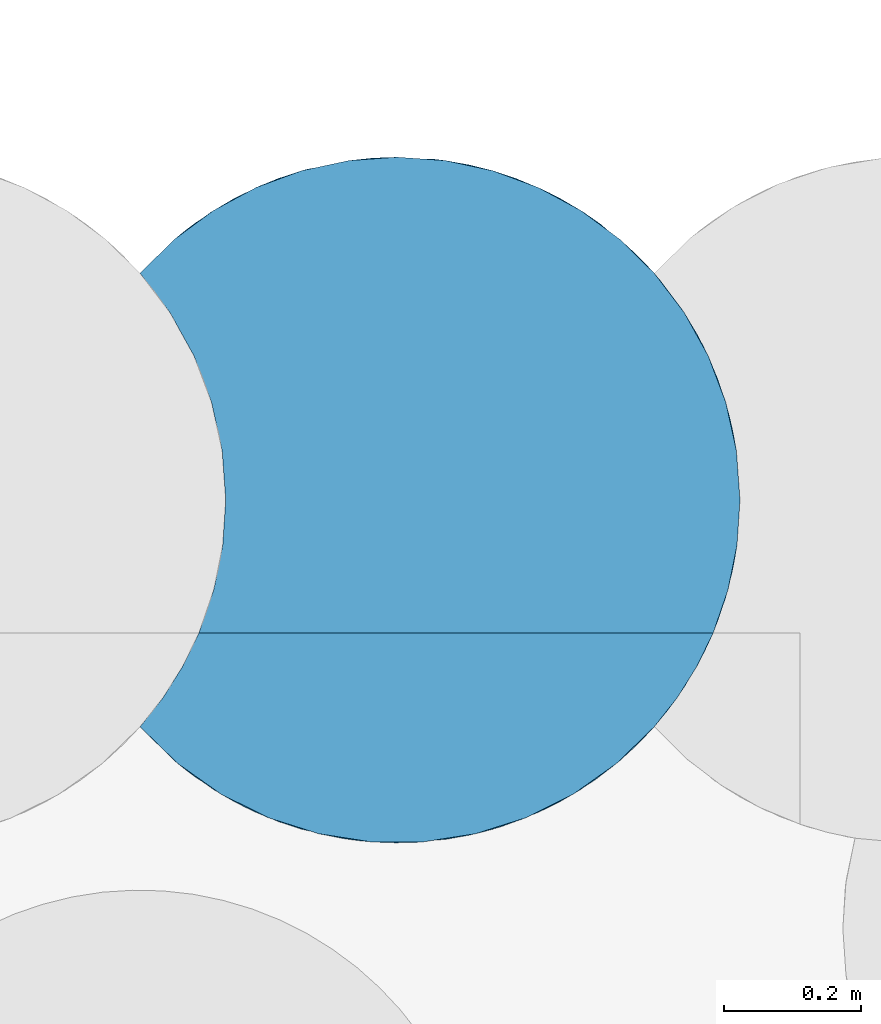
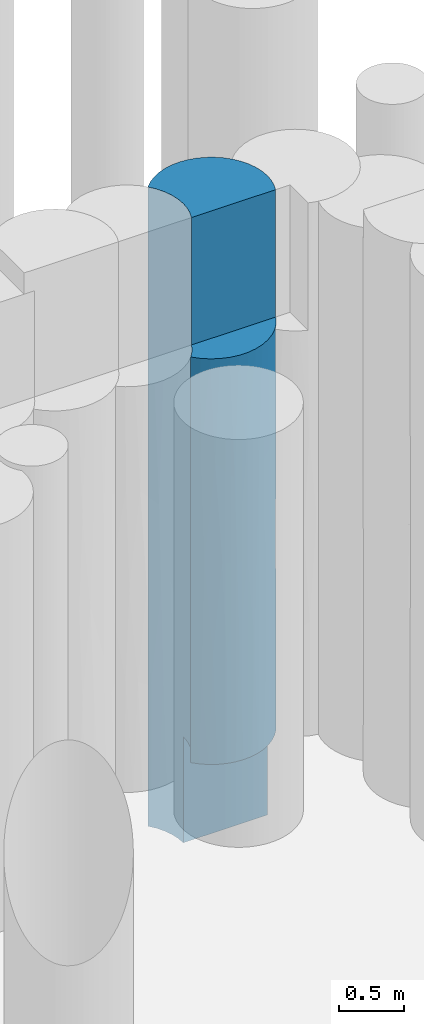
# One storey, part 97 of 104: 1 pile.
"""IFC2X3 building model written with IfcOpenShell, lengths in millimetres."""

from ifc_helpers import new_model, entity, si_unit, converted_unit, derived_unit, direction, frame, origin, place, context, subcontext, project, spatial, faceted_brep, source, transform, mapped, material, element, save


model = new_model("IFC2X3")

# Units and contexts
model_context = context("Model", 3, precision=0.01, world=origin(), true_north=direction((6.12303176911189e-17, 1.0)))
body_context = subcontext(model_context, "Body", "Model", "MODEL_VIEW")
ifc_project = project(units=[si_unit("LENGTHUNIT", "METRE", prefix="MILLI"), si_unit("AREAUNIT", "SQUARE_METRE", prefix="MILLI"), si_unit("VOLUMEUNIT", "CUBIC_METRE"), converted_unit("PLANEANGLEUNIT", "DEGREE", entity("IfcRatioMeasure", 0.0174532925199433), si_unit("PLANEANGLEUNIT", "RADIAN"), dimensions=[0, 0, 0, 0, 0, 0, 0]), si_unit("MASSUNIT", "GRAM", prefix="KILO"), derived_unit("MASSDENSITYUNIT", [(si_unit("MASSUNIT", "GRAM", prefix="KILO"), 1), (si_unit("LENGTHUNIT", "METRE"), -3)]), derived_unit("MOMENTOFINERTIAUNIT", [(si_unit("LENGTHUNIT", "METRE"), 4)]), si_unit("TIMEUNIT", "SECOND"), si_unit("FREQUENCYUNIT", "HERTZ"), si_unit("THERMODYNAMICTEMPERATUREUNIT", "DEGREE_CELSIUS"), derived_unit("THERMALTRANSMITTANCEUNIT", [(si_unit("MASSUNIT", "GRAM", prefix="KILO"), 1), (si_unit("THERMODYNAMICTEMPERATUREUNIT", "KELVIN"), -1), (si_unit("TIMEUNIT", "SECOND"), -3)]), derived_unit("VOLUMETRICFLOWRATEUNIT", [(si_unit("LENGTHUNIT", "METRE"), 3), (si_unit("TIMEUNIT", "SECOND"), -1)]), si_unit("ELECTRICCURRENTUNIT", "AMPERE"), si_unit("ELECTRICVOLTAGEUNIT", "VOLT"), si_unit("POWERUNIT", "WATT"), si_unit("FORCEUNIT", "NEWTON", prefix="KILO"), si_unit("ILLUMINANCEUNIT", "LUX"), si_unit("LUMINOUSFLUXUNIT", "LUMEN"), si_unit("LUMINOUSINTENSITYUNIT", "CANDELA"), derived_unit("USERDEFINED", [(si_unit("MASSUNIT", "GRAM", prefix="KILO"), -1), (si_unit("LENGTHUNIT", "METRE"), -2), (si_unit("TIMEUNIT", "SECOND"), 3), (si_unit("LUMINOUSFLUXUNIT", "LUMEN"), 1)]), derived_unit("LINEARVELOCITYUNIT", [(si_unit("LENGTHUNIT", "METRE"), 1), (si_unit("TIMEUNIT", "SECOND"), -1)]), si_unit("PRESSUREUNIT", "PASCAL"), derived_unit("USERDEFINED", [(si_unit("LENGTHUNIT", "METRE"), -2), (si_unit("MASSUNIT", "GRAM", prefix="KILO"), 1), (si_unit("TIMEUNIT", "SECOND"), -2)]), derived_unit("LINEARFORCEUNIT", [(si_unit("MASSUNIT", "GRAM", prefix="KILO"), 1), (si_unit("LENGTHUNIT", "METRE"), 1), (si_unit("TIMEUNIT", "SECOND"), -2), (si_unit("LENGTHUNIT", "METRE"), -1)]), derived_unit("PLANARFORCEUNIT", [(si_unit("MASSUNIT", "GRAM", prefix="KILO"), 1), (si_unit("LENGTHUNIT", "METRE"), 1), (si_unit("TIMEUNIT", "SECOND"), -2), (si_unit("LENGTHUNIT", "METRE"), -2)])], contexts=[model_context])

# Site, building, storey
site_placement = place(None, origin())
site = spatial("IfcSite", under=ifc_project, at=site_placement, Name="Theater aan de Parade", CompositionType="ELEMENT")
building_placement = place(site_placement, origin())
building = spatial("IfcBuilding", under=site, at=building_placement, Name="Theater aan de Parade", CompositionType="ELEMENT")
storey_placement = place(building_placement, frame((0.0, 0.0, -5520.0)))
storey = spatial("IfcBuildingStorey", under=building, at=storey_placement, Name="-2 kelder", CompositionType="ELEMENT", Elevation=-5520.0)

# Pile
ifc_material = material(Name="00_PBT_MAT_grout")
shared_shape = source(origin(), body_context, "Body", "Brep", [
    faceted_brep([(447.024567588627, 996.61013494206, 0.0), (516.050365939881, 981.75386768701, 0.0), (582.295809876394, 957.322480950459, 0.0), (644.44026184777, 923.802640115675, 0.0), (701.244632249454, 881.862011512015, 0.0), (751.56469811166, 832.344511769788, 0.0), (795.307447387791, 774.871898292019, 0.0), (830.306104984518, 711.705910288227, 0.0), (855.841245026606, 644.155075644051, 0.0), (871.379164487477, 573.629291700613, 0.0), (876.595272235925, 501.595272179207, 0.0), (126.595272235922, 501.595272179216, 0.0), (121.380912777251, 573.617282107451, 0.0), (105.846592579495, 644.137097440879, 0.0), (80.3163177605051, 711.683855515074, 0.0), (45.3225844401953, 774.848704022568, 0.0), (1.5952722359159, 832.31418606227, 0.0), (51.9353252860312, 881.852972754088, 0.0), (108.741467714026, 923.797047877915, 0.0), (170.888616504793, 957.319719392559, 0.0), (237.136331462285, 981.752750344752, 0.0), (306.163620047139, 996.609799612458, 0.0), (376.59435299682, 1001.59527217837, 0.0), (794.468326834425, 776.153299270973, 1181.5958701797), (549.604882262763, 970.70898423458, 4252.35185064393), (481.800030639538, 990.401940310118, 5046.73098298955), (613.960467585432, 941.660908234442, 5046.72952535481), (876.595272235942, 501.595272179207, 1000.0), (481.800030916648, 990.401940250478, 973.269015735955), (868.064788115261, 593.561108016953, 843.911549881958), (844.294832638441, 678.39210812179, 1143.34616429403), (203.580632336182, 970.70712918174, 1063.74296023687), (613.960468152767, 941.660907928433, 973.270472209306), (82.5015433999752, 905.957583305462, 2819.36088739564), (139.222527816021, 941.656836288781, 4134.76732109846), (179.390184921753, 961.062521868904, 3050.72380864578), (813.948631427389, 743.921579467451, 2131.49373735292), (59.299684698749, 888.019275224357, 3747.70813745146), (727.290636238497, 857.983770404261, 1450.22705156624), (203.580632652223, 970.707129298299, 4993.50721039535), (170.888616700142, 957.319719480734, 6020.0), (237.136331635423, 981.752750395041, 6020.0), (791.821968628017, 780.139327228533, 3961.93474479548), (760.314901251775, 822.15610308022, 2822.41944009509), (738.567546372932, 846.524355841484, 3621.6251713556), (855.841245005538, 644.155075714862, 6020.0), (871.379164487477, 573.629291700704, 6020.0), (864.885161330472, 609.17307754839, 5027.21067374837), (104.796649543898, 921.268369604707, 1017.24976929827), (376.594352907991, 1001.59527217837, 6020.0), (341.290873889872, 1000.34731423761, 4532.50916780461), (306.16362012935, 996.609799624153, 6020.0), (830.306104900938, 711.70591046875, 6020.0), (245.120995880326, 984.000200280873, 2037.01714424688), (341.290873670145, 1000.34731422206, 1487.49083043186), (862.936733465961, 617.664144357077, 2253.17997919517), (876.595272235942, 501.595272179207, 1948.4622724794), (813.948631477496, 743.921579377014, 4944.04250752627), (647.034222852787, 922.145832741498, 4095.65503016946), (876.595272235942, 501.595272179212, 6020.0), (876.595272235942, 501.595272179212, 4458.46227247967), (673.583725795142, 903.836317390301, 3010.0), (649.475534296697, 920.565870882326, 1946.18634442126), (598.684308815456, 949.564534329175, 2648.58333771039), (823.931585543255, 724.956465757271, 3130.25628401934), (860.453425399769, 627.616253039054, 3208.79938108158), (795.307447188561, 774.871898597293, 6020.0), (243.721180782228, 983.616512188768, 4025.56058442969), (727.290635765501, 857.983770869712, 4462.4601807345), (701.244631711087, 881.862011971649, 6020.0), (751.585178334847, 832.325631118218, 6020.0), (549.604882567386, 970.70898412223, 1767.64814583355), (442.216155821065, 997.270467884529, 1937.66301506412), (516.943667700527, 981.493519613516, 3010.0), (844.294831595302, 678.392110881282, 4034.71686422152), (1.59527223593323, 832.314186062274, 1561.5356282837), (1.5952722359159, 832.314186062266, 6020.0), (51.9353254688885, 881.852972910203, 6020.0), (1.5952722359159, 832.31418606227, 4571.53832180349), (60.8176018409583, 889.260672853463, 1988.52846477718), (1.59527223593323, 832.31418606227, 3123.07664360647), (869.613609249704, 584.85942634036, 4005.40034302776), (139.222527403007, 941.656836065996, 1966.68029860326), (876.595272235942, 501.595272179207, 2896.92454495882), (71.7376748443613, 897.905561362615, 4620.72040298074), (582.295809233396, 957.322481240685, 6020.0), (644.440261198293, 923.802640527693, 6020.0), (516.050365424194, 981.753867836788, 6020.0), (447.024567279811, 996.610134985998, 6020.0), (108.741467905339, 923.797047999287, 6020.0), (442.216155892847, 997.270467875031, 4082.33698560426), (341.290873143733, 1000.34731418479, 3010.0), (429.956556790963, 998.739691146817, 2778.24115108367), (588.234835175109, 954.594935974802, 3493.0699407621), (876.595272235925, 501.595272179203, 3510.0), (1.59527223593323, 832.314186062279, 2342.3064664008), (876.595272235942, 501.595272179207, 2561.53770592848), (237.133688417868, 21.4385616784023, 1979.16415685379), (170.888936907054, 45.870680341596, 1000.0), (237.139379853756, 21.4369086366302, 1000.0), (768.918143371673, 191.623072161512, 3881.14995496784), (696.360801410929, 117.212642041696, 4820.0), (665.805427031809, 93.7258244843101, 3784.44216774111), (66.8709000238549, 109.076720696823, 1808.25001791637), (1.5952722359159, 170.876358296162, 1780.76538335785), (51.9315440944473, 121.340799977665, 1000.0), (203.582286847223, 32.4828049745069, 2899.05592361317), (299.808764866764, 7.5266207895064, 3674.28632474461), (153.468948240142, 54.1417622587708, 3826.62005184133), (320.381932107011, 4.76526061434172, 2852.64814829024), (341.298032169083, 2.84272347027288, 2031.5394616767), (139.221565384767, 61.5342272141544, 2032.79887932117), (82.8600349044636, 96.9724720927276, 2910.0), (447.035194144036, 6.58192144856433, 1000.0), (481.811471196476, 12.7910665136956, 2031.53856965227), (376.602802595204, 1.5952722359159, 1000.0), (402.779789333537, 2.28137184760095, 3859.6748222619), (491.218850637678, 14.9111494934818, 4820.0), (415.111735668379, 3.08099751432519, 4820.0), (306.169463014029, 6.57991343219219, 1000.0), (1.5952722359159, 170.876358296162, 2561.53076671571), (1.5952722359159, 170.876358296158, 3258.45766776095), (338.09061171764, 3.08008573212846, 4820.0), (261.983113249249, 14.9084601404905, 4820.0), (503.291727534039, 17.913550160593, 2860.08389426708), (411.907133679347, 2.84375845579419, 2896.31694129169), (613.973379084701, 61.5366006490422, 2844.68650958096), (698.095693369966, 118.662537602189, 2876.77219665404), (613.973379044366, 61.5366006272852, 1893.77153454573), (516.062532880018, 21.4402105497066, 1000.0), (796.191343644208, 229.677753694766, 2003.42663853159), (768.91814336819, 191.623072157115, 2910.0), (727.301618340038, 145.217580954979, 2013.38083127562), (869.741710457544, 419.093208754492, 1963.43922655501), (855.843884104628, 359.044340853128, 1000.0), (871.38000584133, 429.567031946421, 1000.0), (188.595201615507, 38.2854692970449, 4820.0), (119.668311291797, 72.6564225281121, 4820.0), (61.9987064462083, 112.970773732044, 3850.70563280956), (1.5952722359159, 170.876358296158, 4820.0), (528.363265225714, 25.1852845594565, 3678.69038003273), (859.062113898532, 370.348380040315, 6020.0), (837.435053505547, 307.619253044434, 4820.0), (868.01901748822, 409.385171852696, 4958.42027906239), (582.308728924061, 45.8738948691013, 1000.0), (644.453065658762, 79.3960271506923, 1000.0), (701.256460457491, 121.338631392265, 1000.0), (751.595272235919, 170.876358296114, 1000.0), (795.315189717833, 228.330509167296, 1000.0), (867.058013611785, 404.403197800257, 2922.06841284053), (844.298622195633, 324.808461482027, 2323.87273859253), (830.31122192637, 291.495683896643, 1000.0), (108.739323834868, 79.3948566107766, 1000.0), (826.272405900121, 282.984944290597, 3622.97170314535), (1.5952722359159, 170.876358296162, 1000.0), (564.606016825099, 38.2898006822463, 4820.0), (633.531841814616, 72.6621780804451, 4820.0), (785.094634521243, 213.275534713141, 4820.0), (751.595272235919, 170.876358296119, 4820.0), (813.794085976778, 258.990249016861, 4820.0), (837.435053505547, 307.619253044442, 6020.0), (864.400417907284, 391.840364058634, 3984.23114693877), (872.192599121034, 435.388855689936, 6020.0), (56.8380491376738, 117.205732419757, 4820.0), (45.3225844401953, 774.848704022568, 6020.0), (80.3163177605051, 711.683855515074, 6020.0), (105.846592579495, 644.137097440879, 6020.0), (121.380912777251, 573.617282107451, 6020.0), (126.595272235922, 501.595272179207, 6020.0), (122.192599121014, 435.388855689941, 6020.0), (109.062113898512, 370.348380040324, 6020.0), (87.4350535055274, 307.619253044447, 6020.0), (126.595272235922, 501.595272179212, 1000.0), (63.961232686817, 743.898835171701, 1002.251565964), (103.716989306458, 651.110713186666, 929.57030199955), (114.888484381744, 609.157993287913, 4980.60391091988), (55.0608520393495, 759.310710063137, 4352.20394334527), (81.2171477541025, 709.727322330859, 5041.92503417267), (117.643576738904, 595.784245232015, 2422.69339012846), (94.3024450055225, 678.371969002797, 1823.06883587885), (84.0945850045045, 703.32375012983, 2968.94577947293), (117.697831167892, 595.500951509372, 3454.20517487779), (94.3024444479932, 678.371970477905, 4114.82273324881), (126.595272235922, 501.595272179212, 1948.46227207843), (126.595272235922, 501.595272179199, 2561.53770595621), (126.595272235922, 501.595272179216, 2896.92454415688), (126.595272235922, 501.595272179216, 4458.4622720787), (126.595272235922, 501.595272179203, 3510.0), (52.6084708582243, 763.344684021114, 1951.92213442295), (105.846592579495, 359.053446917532, 1000.0), (80.3163177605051, 291.506688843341, 1000.0), (63.9612331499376, 259.291710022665, 1953.95952442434), (114.888484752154, 394.032552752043, 1953.95952435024), (94.3024456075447, 324.818576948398, 2715.05844099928), (53.5045692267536, 241.309943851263, 2910.0), (45.3225844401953, 228.341840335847, 1000.0), (35.0899489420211, 213.268896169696, 4820.0), (114.808175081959, 393.668623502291, 3984.23114692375), (119.158859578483, 415.681871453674, 3035.76885284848), (76.281832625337, 283.004335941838, 3740.57177268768), (121.380912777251, 429.573262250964, 1000.0), (63.8150080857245, 259.027956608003, 4820.0), (87.4350535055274, 307.619253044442, 4820.0), (118.034858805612, 409.4696364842, 4962.41816817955)], [[[0, 1, 2, 3, 4, 5, 6, 7, 8, 9, 10, 11, 12, 13, 14, 15, 16, 17, 18, 19, 20, 21, 22]], [[7, 6, 23]], [[24, 25, 26]], [[10, 9, 27]], [[1, 28, 2]], [[29, 8, 30]], [[19, 31, 20]], [[3, 2, 32]], [[33, 34, 35]], [[23, 36, 30]], [[33, 37, 34]], [[38, 36, 23]], [[5, 4, 38]], [[28, 32, 2]], [[39, 40, 41]], [[42, 43, 44]], [[5, 38, 23]], [[8, 7, 30]], [[45, 46, 47]], [[19, 48, 31]], [[49, 50, 51]], [[45, 47, 52]], [[31, 53, 54]], [[55, 56, 29]], [[47, 57, 52]], [[24, 26, 58]], [[59, 60, 47]], [[61, 62, 63]], [[64, 65, 55]], [[52, 57, 66]], [[34, 67, 35]], [[68, 69, 70]], [[71, 72, 73]], [[26, 69, 68]], [[28, 1, 0]], [[32, 62, 38]], [[42, 57, 74]], [[32, 28, 71]], [[51, 39, 41]], [[54, 22, 21]], [[70, 57, 68]], [[17, 16, 75]], [[76, 77, 78]], [[79, 80, 33]], [[81, 47, 60]], [[53, 31, 82]], [[9, 29, 27]], [[82, 31, 48]], [[48, 19, 18]], [[81, 83, 65]], [[21, 31, 54]], [[84, 34, 37]], [[57, 70, 66]], [[26, 85, 86]], [[85, 26, 25]], [[85, 25, 87]], [[28, 72, 71]], [[21, 20, 31]], [[87, 25, 88]], [[68, 57, 42]], [[39, 67, 34]], [[34, 84, 39]], [[50, 39, 51]], [[75, 48, 17]], [[55, 30, 36]], [[38, 62, 43]], [[89, 84, 77]], [[4, 3, 32]], [[39, 89, 40]], [[49, 88, 25]], [[54, 28, 22]], [[67, 39, 50]], [[25, 90, 50]], [[62, 32, 71]], [[4, 32, 38]], [[22, 28, 0]], [[72, 28, 54]], [[69, 26, 86]], [[58, 26, 68]], [[90, 25, 24]], [[49, 25, 50]], [[55, 36, 64]], [[56, 27, 29]], [[63, 71, 73]], [[43, 62, 61]], [[54, 91, 72]], [[50, 90, 91]], [[92, 73, 72]], [[93, 63, 73]], [[24, 73, 90]], [[90, 73, 92]], [[44, 58, 68]], [[61, 63, 93]], [[50, 91, 67]], [[54, 53, 91]], [[91, 35, 67]], [[33, 35, 82]], [[82, 35, 53]], [[91, 53, 35]], [[74, 64, 42]], [[64, 43, 42]], [[64, 74, 65]], [[43, 64, 36]], [[38, 43, 36]], [[44, 68, 42]], [[81, 65, 74]], [[83, 55, 65]], [[74, 57, 47]], [[81, 60, 94, 83]], [[47, 46, 59]], [[74, 47, 81]], [[17, 48, 18]], [[79, 48, 75]], [[79, 33, 82]], [[33, 80, 37]], [[80, 78, 37]], [[84, 37, 78]], [[77, 84, 78]], [[39, 84, 89]], [[7, 23, 30]], [[5, 23, 6]], [[48, 79, 82]], [[79, 75, 95, 80]], [[71, 63, 62]], [[73, 24, 93]], [[24, 58, 93]], [[61, 93, 58]], [[43, 61, 44]], [[58, 44, 61]], [[8, 29, 9]], [[55, 29, 30]], [[55, 83, 96, 56]], [[72, 91, 92]], [[90, 92, 91]], [[97, 98, 99]], [[100, 101, 102]], [[103, 104, 105]], [[106, 107, 108]], [[109, 97, 110]], [[111, 106, 112]], [[113, 114, 115]], [[116, 117, 118]], [[115, 110, 119]], [[120, 103, 112]], [[120, 112, 121]], [[114, 110, 115]], [[107, 122, 123]], [[114, 124, 125]], [[102, 126, 127]], [[128, 114, 129]], [[130, 131, 132]], [[113, 129, 114]], [[133, 134, 135]], [[125, 109, 110]], [[108, 136, 137]], [[133, 27, 56, 96]], [[112, 138, 121]], [[139, 121, 138]], [[123, 108, 107]], [[108, 123, 136]], [[102, 127, 100]], [[110, 114, 125]], [[117, 116, 140]], [[119, 110, 97]], [[102, 140, 126]], [[141, 142, 143]], [[144, 145, 128]], [[128, 145, 146]], [[147, 132, 146]], [[128, 129, 144]], [[128, 146, 132]], [[125, 116, 109]], [[130, 147, 148]], [[124, 126, 140]], [[149, 150, 133]], [[138, 108, 137]], [[150, 151, 134]], [[127, 128, 132]], [[131, 127, 132]], [[150, 134, 133]], [[151, 150, 130]], [[107, 109, 116]], [[103, 152, 111]], [[131, 150, 153]], [[105, 104, 154]], [[155, 140, 102]], [[102, 156, 155]], [[100, 157, 158]], [[156, 102, 101]], [[147, 130, 132]], [[159, 100, 153]], [[111, 152, 98]], [[153, 142, 159]], [[160, 142, 141]], [[142, 153, 161]], [[161, 94, 60]], [[153, 100, 131]], [[101, 100, 158]], [[161, 143, 142]], [[149, 94, 161]], [[100, 159, 157]], [[116, 122, 107]], [[103, 120, 104]], [[140, 155, 117]], [[106, 111, 97]], [[59, 162, 143]], [[128, 126, 124]], [[138, 137, 163]], [[112, 106, 108]], [[161, 60, 143]], [[149, 153, 150]], [[151, 130, 148]], [[150, 131, 130]], [[108, 138, 112]], [[139, 138, 163]], [[98, 97, 111]], [[119, 97, 99]], [[127, 131, 100]], [[128, 127, 126]], [[59, 143, 60]], [[141, 143, 162]], [[152, 103, 105]], [[112, 103, 111]], [[27, 133, 135]], [[149, 133, 96]], [[149, 96, 83, 94]], [[153, 149, 161]], [[116, 125, 124]], [[122, 116, 118]], [[107, 106, 109]], [[97, 109, 106]], [[124, 114, 128]], [[116, 124, 140]], [[88, 49, 51, 41, 40, 89, 77, 76, 164, 165, 166, 167, 168, 169, 170, 171, 160, 141, 162, 59, 46, 45, 52, 66, 70, 69, 86, 85, 87]], [[172, 12, 11]], [[14, 173, 15]], [[14, 13, 174]], [[167, 175, 168]], [[176, 78, 80]], [[165, 164, 177]], [[174, 178, 179]], [[166, 177, 175]], [[174, 13, 12]], [[180, 80, 95]], [[181, 182, 180]], [[178, 183, 184, 185]], [[166, 165, 177]], [[179, 173, 174]], [[166, 175, 167]], [[173, 14, 174]], [[78, 164, 76]], [[182, 175, 177]], [[168, 175, 186]], [[16, 173, 75]], [[15, 173, 16]], [[181, 185, 187, 186]], [[179, 180, 188]], [[186, 175, 181]], [[177, 176, 182]], [[78, 177, 164]], [[178, 174, 183]], [[172, 174, 12]], [[179, 178, 180]], [[183, 174, 172]], [[178, 185, 181]], [[95, 75, 188]], [[80, 180, 176]], [[178, 181, 180]], [[175, 182, 181]], [[180, 182, 176]], [[176, 177, 78]], [[75, 173, 188]], [[95, 188, 180]], [[179, 188, 173]], [[189, 190, 191, 192]], [[191, 154, 104, 120]], [[193, 191, 194]], [[195, 154, 191]], [[121, 139, 196]], [[190, 195, 191]], [[197, 198, 193]], [[199, 121, 196]], [[192, 200, 189]], [[200, 192, 172]], [[201, 202, 199]], [[120, 194, 191]], [[198, 187, 185, 184]], [[194, 120, 121]], [[192, 184, 183, 172]], [[202, 203, 197]], [[203, 202, 170]], [[171, 170, 202]], [[121, 199, 194]], [[197, 199, 202]], [[201, 199, 196]], [[203, 169, 168]], [[193, 192, 191]], [[184, 192, 198]], [[197, 186, 187]], [[193, 194, 199]], [[203, 186, 197]], [[199, 197, 193]], [[187, 198, 197]], [[193, 198, 192]], [[186, 203, 168]], [[169, 203, 170]], [[147, 146, 145, 144, 129, 113, 115, 119, 99, 98, 152, 105, 154, 195, 190, 189, 200, 172, 27, 135, 134, 151, 148]], [[172, 11, 10, 27]], [[163, 137, 136, 123, 122, 118, 117, 155, 156, 101, 158, 157, 159, 142, 202, 201, 196, 139]], [[171, 202, 142, 160]]]),
])
pile_placement = place(storey_placement, frame((85273.4047277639, 20202.3807469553, -3840.0)))
element("IfcPile", 1, at=pile_placement, inside=storey, material=ifc_material, Name="17_PBT_SFO_grondkering_rond:Ø1000 (grondkering)", ObjectType="17_PBT_SFO_grondkering_rond:Ø1000 (grondkering)", PredefinedType="NOTDEFINED", context=body_context, shape_type="MappedRepresentation", body=[
    mapped(shared_shape, transform((0.0, 0.0, 0.0), scale=1.0)),
])

save(model, "model.ifc")
